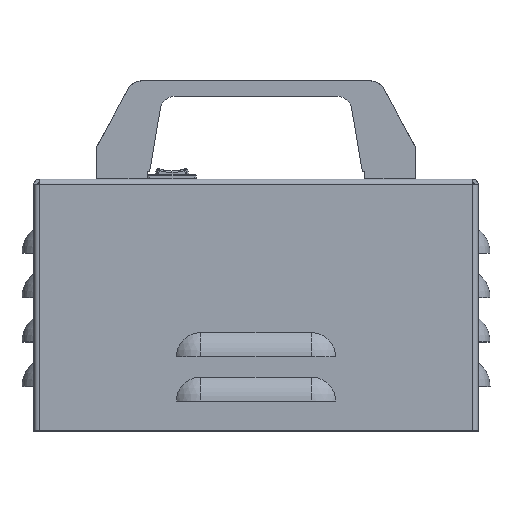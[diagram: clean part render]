
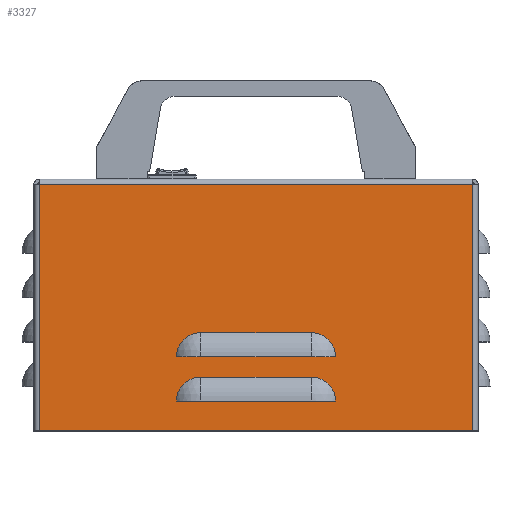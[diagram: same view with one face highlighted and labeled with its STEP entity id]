
A CAD part, top view. The second image highlights one B-rep face of the part: STEP entity #3327.
In plain terms, the highlighted planar face has unit normal (0, 0, 1).
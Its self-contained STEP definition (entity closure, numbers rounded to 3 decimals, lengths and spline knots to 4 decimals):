
#247 = EDGE_CURVE ( 'NONE', #41862, #19565, #896, .T. ) ;
#686 = LINE ( 'NONE', #24507, #10377 ) ;
#896 = LINE ( 'NONE', #27730, #39076 ) ;
#1275 = CARTESIAN_POINT ( 'NONE',  ( 1.2644, -3.75, 2.265 ) ) ;
#1509 = VERTEX_POINT ( 'NONE', #6949 ) ;
#1697 = VERTEX_POINT ( 'NONE', #15834 ) ;
#1707 = AXIS2_PLACEMENT_3D ( 'NONE', #11624, #44173, #3921 ) ;
#1799 = CARTESIAN_POINT ( 'NONE',  ( -1.3432, -3.75, 2.265 ) ) ;
#2176 = LINE ( 'NONE', #11323, #18029 ) ;
#2860 = DIRECTION ( 'NONE',  ( 1., 0., 0. ) ) ;
#3070 = CARTESIAN_POINT ( 'NONE',  ( -1.2644, -3.75, 2.265 ) ) ;
#3100 = LINE ( 'NONE', #45747, #22337 ) ;
#3298 = VECTOR ( 'NONE', #32213, 39.3701 ) ;
#3327 = ADVANCED_FACE ( 'NONE', ( #13439, #5525, #11723 ), #19846, .T. ) ;
#3921 = DIRECTION ( 'NONE',  ( 0., -1., 0. ) ) ;
#4310 = EDGE_CURVE ( 'NONE', #41873, #24106, #40473, .T. ) ;
#4485 = CARTESIAN_POINT ( 'NONE',  ( 0.9375, -3.75, 2.265 ) ) ;
#4695 = CARTESIAN_POINT ( 'NONE',  ( -0.9375, -2.5943, 2.265 ) ) ;
#5483 = CARTESIAN_POINT ( 'NONE',  ( 3.665, -0.09, 2.265 ) ) ;
#5525 = FACE_BOUND ( 'NONE', #39631, .T. ) ;
#6403 = LINE ( 'NONE', #34460, #9288 ) ;
#6949 = CARTESIAN_POINT ( 'NONE',  ( -0.9375, -3.3443, 2.265 ) ) ;
#7288 = EDGE_CURVE ( 'NONE', #1697, #13146, #42058, .T. ) ;
#7673 = ORIENTED_EDGE ( 'NONE', *, *, #46988, .T. ) ;
#8811 = AXIS2_PLACEMENT_3D ( 'NONE', #4485, #29792, #11443 ) ;
#9220 = ORIENTED_EDGE ( 'NONE', *, *, #247, .F. ) ;
#9288 = VECTOR ( 'NONE', #19570, 39.3701 ) ;
#9697 = LINE ( 'NONE', #14765, #18202 ) ;
#9704 = DIRECTION ( 'NONE',  ( -1., 0., 0. ) ) ;
#9731 = DIRECTION ( 'NONE',  ( 1., 0., 0. ) ) ;
#9797 = EDGE_LOOP ( 'NONE', ( #43322, #33293, #25644, #22339 ) ) ;
#9799 = EDGE_CURVE ( 'NONE', #18358, #40857, #2176, .T. ) ;
#10377 = VECTOR ( 'NONE', #2860, 39.3701 ) ;
#10701 = LINE ( 'NONE', #12807, #38379 ) ;
#10725 = CARTESIAN_POINT ( 'NONE',  ( 1.2644, -3., 2.265 ) ) ;
#11323 = CARTESIAN_POINT ( 'NONE',  ( 0., -3.75, 2.265 ) ) ;
#11327 = DIRECTION ( 'NONE',  ( -1., 0., 0. ) ) ;
#11443 = DIRECTION ( 'NONE',  ( 0., -1., 0. ) ) ;
#11624 = CARTESIAN_POINT ( 'NONE',  ( -0.9375, -3.75, 2.265 ) ) ;
#11723 = FACE_BOUND ( 'NONE', #33945, .T. ) ;
#11791 = CARTESIAN_POINT ( 'NONE',  ( 0.9375, -2.5943, 2.265 ) ) ;
#12452 = VERTEX_POINT ( 'NONE', #1275 ) ;
#12807 = CARTESIAN_POINT ( 'NONE',  ( 0., -0.09, 2.265 ) ) ;
#13146 = VERTEX_POINT ( 'NONE', #39466 ) ;
#13439 = FACE_OUTER_BOUND ( 'NONE', #9797, .T. ) ;
#14119 = ORIENTED_EDGE ( 'NONE', *, *, #35142, .F. ) ;
#14348 = EDGE_CURVE ( 'NONE', #42729, #46909, #686, .T. ) ;
#14366 = EDGE_CURVE ( 'NONE', #1697, #1509, #19992, .T. ) ;
#14765 = CARTESIAN_POINT ( 'NONE',  ( -3.665, -4.25, 2.265 ) ) ;
#14828 = ORIENTED_EDGE ( 'NONE', *, *, #9799, .T. ) ;
#14850 = CARTESIAN_POINT ( 'NONE',  ( 0., -3.75, 2.265 ) ) ;
#15834 = CARTESIAN_POINT ( 'NONE',  ( 0.9375, -3.3443, 2.265 ) ) ;
#16166 = CARTESIAN_POINT ( 'NONE',  ( -1.3432, -3., 2.265 ) ) ;
#16868 = EDGE_CURVE ( 'NONE', #24106, #20092, #9697, .T. ) ;
#18029 = VECTOR ( 'NONE', #43718, 39.3701 ) ;
#18202 = VECTOR ( 'NONE', #32795, 39.3701 ) ;
#18358 = VERTEX_POINT ( 'NONE', #3070 ) ;
#18850 = DIRECTION ( 'NONE',  ( 0., -1., 0. ) ) ;
#19329 = CARTESIAN_POINT ( 'NONE',  ( 0.9375, -3., 2.265 ) ) ;
#19538 = CARTESIAN_POINT ( 'NONE',  ( -1.2644, -3., 2.265 ) ) ;
#19565 = VERTEX_POINT ( 'NONE', #4695 ) ;
#19570 = DIRECTION ( 'NONE',  ( 0., 1., 0. ) ) ;
#19615 = ORIENTED_EDGE ( 'NONE', *, *, #40627, .T. ) ;
#19846 = PLANE ( 'NONE',  #27657 ) ;
#19956 = ORIENTED_EDGE ( 'NONE', *, *, #37321, .T. ) ;
#19992 = LINE ( 'NONE', #35628, #38069 ) ;
#20092 = VERTEX_POINT ( 'NONE', #30367 ) ;
#21548 = DIRECTION ( 'NONE',  ( -1., 0., 0. ) ) ;
#21580 = CARTESIAN_POINT ( 'NONE',  ( -3.665, -0.09, 2.265 ) ) ;
#21990 = AXIS2_PLACEMENT_3D ( 'NONE', #19329, #30082, #33737 ) ;
#22330 = DIRECTION ( 'NONE',  ( 0., 0., -1. ) ) ;
#22337 = VECTOR ( 'NONE', #9731, 39.3701 ) ;
#22339 = ORIENTED_EDGE ( 'NONE', *, *, #16868, .F. ) ;
#23088 = LINE ( 'NONE', #46880, #3298 ) ;
#23463 = DIRECTION ( 'NONE',  ( 0., 0., 1. ) ) ;
#23746 = LINE ( 'NONE', #29304, #35662 ) ;
#24106 = VERTEX_POINT ( 'NONE', #26497 ) ;
#24507 = CARTESIAN_POINT ( 'NONE',  ( 0., -3., 2.265 ) ) ;
#24622 = EDGE_CURVE ( 'NONE', #37496, #19565, #43228, .T. ) ;
#24646 = ORIENTED_EDGE ( 'NONE', *, *, #27155, .T. ) ;
#24803 = EDGE_CURVE ( 'NONE', #20092, #28137, #6403, .T. ) ;
#24962 = CIRCLE ( 'NONE', #21990, 0.4057 ) ;
#25644 = ORIENTED_EDGE ( 'NONE', *, *, #24803, .F. ) ;
#26277 = CARTESIAN_POINT ( 'NONE',  ( -0.9375, -3., 2.265 ) ) ;
#26497 = CARTESIAN_POINT ( 'NONE',  ( 3.665, -4.25, 2.265 ) ) ;
#26877 = LINE ( 'NONE', #14850, #42116 ) ;
#27155 = EDGE_CURVE ( 'NONE', #13146, #12452, #26877, .T. ) ;
#27657 = AXIS2_PLACEMENT_3D ( 'NONE', #45107, #23463, #41175 ) ;
#27663 = DIRECTION ( 'NONE',  ( -1., 0., 0. ) ) ;
#27730 = CARTESIAN_POINT ( 'NONE',  ( 0.9375, -2.5943, 2.265 ) ) ;
#28137 = VERTEX_POINT ( 'NONE', #21580 ) ;
#28444 = ORIENTED_EDGE ( 'NONE', *, *, #43025, .T. ) ;
#28700 = VERTEX_POINT ( 'NONE', #35544 ) ;
#29304 = CARTESIAN_POINT ( 'NONE',  ( 0., -3., 2.265 ) ) ;
#29792 = DIRECTION ( 'NONE',  ( 0., 0., -1. ) ) ;
#30082 = DIRECTION ( 'NONE',  ( 0., 0., -1. ) ) ;
#30367 = CARTESIAN_POINT ( 'NONE',  ( -3.665, -4.25, 2.265 ) ) ;
#30453 = ORIENTED_EDGE ( 'NONE', *, *, #7288, .T. ) ;
#32129 = DIRECTION ( 'NONE',  ( -1., 0., 0. ) ) ;
#32213 = DIRECTION ( 'NONE',  ( -1., 0., 0. ) ) ;
#32795 = DIRECTION ( 'NONE',  ( -1., 0., 0. ) ) ;
#33293 = ORIENTED_EDGE ( 'NONE', *, *, #44997, .T. ) ;
#33720 = CIRCLE ( 'NONE', #1707, 0.4057 ) ;
#33737 = DIRECTION ( 'NONE',  ( 0., -1., 0. ) ) ;
#33945 = EDGE_LOOP ( 'NONE', ( #30453, #24646, #14119, #14828, #7673, #39882 ) ) ;
#34460 = CARTESIAN_POINT ( 'NONE',  ( -3.665, -0.06, 2.265 ) ) ;
#35142 = EDGE_CURVE ( 'NONE', #18358, #12452, #3100, .T. ) ;
#35544 = CARTESIAN_POINT ( 'NONE',  ( 1.3432, -3., 2.265 ) ) ;
#35628 = CARTESIAN_POINT ( 'NONE',  ( 0.9375, -3.3443, 2.265 ) ) ;
#35662 = VECTOR ( 'NONE', #21548, 39.3701 ) ;
#36669 = CARTESIAN_POINT ( 'NONE',  ( 3.665, -4.25, 2.265 ) ) ;
#37321 = EDGE_CURVE ( 'NONE', #41862, #28700, #24962, .T. ) ;
#37496 = VERTEX_POINT ( 'NONE', #16166 ) ;
#38069 = VECTOR ( 'NONE', #32129, 39.3701 ) ;
#38379 = VECTOR ( 'NONE', #27663, 39.3701 ) ;
#39076 = VECTOR ( 'NONE', #9704, 39.3701 ) ;
#39466 = CARTESIAN_POINT ( 'NONE',  ( 1.3432, -3.75, 2.265 ) ) ;
#39631 = EDGE_LOOP ( 'NONE', ( #19956, #19615, #46369, #28444, #44826, #9220 ) ) ;
#39882 = ORIENTED_EDGE ( 'NONE', *, *, #14366, .F. ) ;
#40128 = DIRECTION ( 'NONE',  ( 0., -1., 0. ) ) ;
#40473 = LINE ( 'NONE', #36669, #43893 ) ;
#40627 = EDGE_CURVE ( 'NONE', #28700, #46909, #23088, .T. ) ;
#40857 = VERTEX_POINT ( 'NONE', #1799 ) ;
#41175 = DIRECTION ( 'NONE',  ( 0., -1., 0. ) ) ;
#41862 = VERTEX_POINT ( 'NONE', #11791 ) ;
#41873 = VERTEX_POINT ( 'NONE', #5483 ) ;
#42058 = CIRCLE ( 'NONE', #8811, 0.4057 ) ;
#42116 = VECTOR ( 'NONE', #11327, 39.3701 ) ;
#42729 = VERTEX_POINT ( 'NONE', #19538 ) ;
#43025 = EDGE_CURVE ( 'NONE', #42729, #37496, #23746, .T. ) ;
#43228 = CIRCLE ( 'NONE', #43287, 0.4057 ) ;
#43287 = AXIS2_PLACEMENT_3D ( 'NONE', #26277, #22330, #18850 ) ;
#43322 = ORIENTED_EDGE ( 'NONE', *, *, #4310, .F. ) ;
#43718 = DIRECTION ( 'NONE',  ( -1., 0., 0. ) ) ;
#43893 = VECTOR ( 'NONE', #40128, 39.3701 ) ;
#44173 = DIRECTION ( 'NONE',  ( 0., 0., -1. ) ) ;
#44826 = ORIENTED_EDGE ( 'NONE', *, *, #24622, .T. ) ;
#44997 = EDGE_CURVE ( 'NONE', #41873, #28137, #10701, .T. ) ;
#45107 = CARTESIAN_POINT ( 'NONE',  ( 0., 0., 2.265 ) ) ;
#45747 = CARTESIAN_POINT ( 'NONE',  ( 0., -3.75, 2.265 ) ) ;
#46369 = ORIENTED_EDGE ( 'NONE', *, *, #14348, .F. ) ;
#46880 = CARTESIAN_POINT ( 'NONE',  ( 0., -3., 2.265 ) ) ;
#46909 = VERTEX_POINT ( 'NONE', #10725 ) ;
#46988 = EDGE_CURVE ( 'NONE', #40857, #1509, #33720, .T. ) ;
